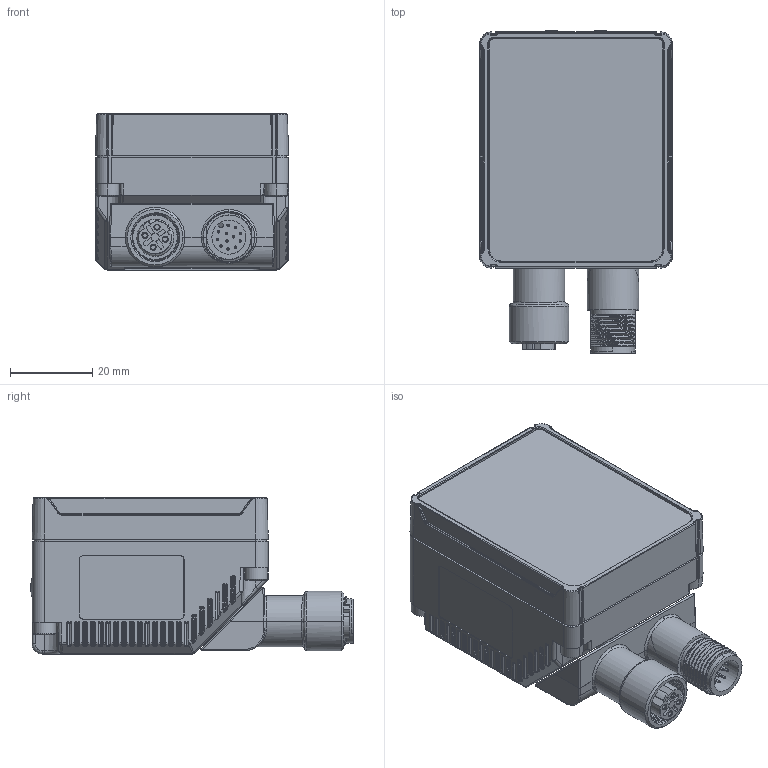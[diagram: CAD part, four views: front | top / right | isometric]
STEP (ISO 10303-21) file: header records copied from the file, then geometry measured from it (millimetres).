
FILE_DESCRIPTION((''),'2;1');
FILE_NAME('57_8X47X38-4000-3D-V2_0','2023-11-28T15:22:40',('19499'),(''),'CREO PARAMETRIC BY PTC INC, 2020184','CREO PARAMETRIC BY PTC INC, 2020184','');
FILE_SCHEMA(('CONFIG_CONTROL_DESIGN','SHAPE_APPEARANCE_LAYERS_GROUPS'));
Products named in the file (1): 57_8X47X38-4000-3D-V2_0
Bounding box: 47 x 78.53 x 38 mm (x, y, z)
Volume: 99550.3 mm3; surface area: 20621.7 mm2
Topology: 1 solids, 14 shells, 1984 faces, 4950 edges, 3008 vertices
Faces by surface type: cylinder 812, bspline 455, plane 445, torus 147, cone 93, sphere 32
Entity records: 94001 total; most frequent: CARTESIAN_POINT 49874, ORIENTED_EDGE 9824, DIRECTION 8462, EDGE_CURVE 4912, AXIS2_PLACEMENT_3D 3342, VERTEX_POINT 3008, EDGE_LOOP 2044, FACE_OUTER_BOUND 1984
